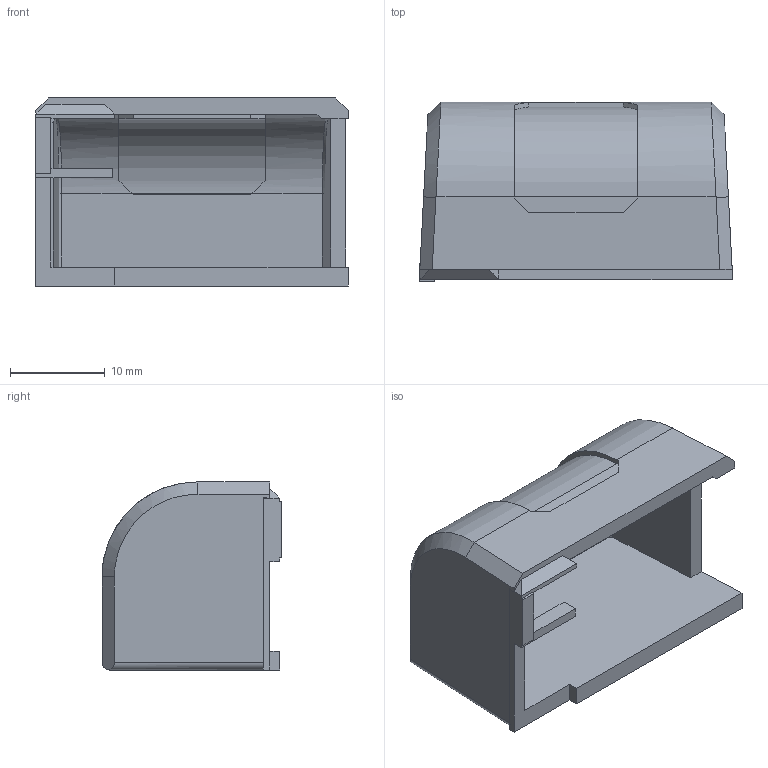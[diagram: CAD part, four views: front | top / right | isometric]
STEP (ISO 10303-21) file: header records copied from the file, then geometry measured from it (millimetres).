
FILE_DESCRIPTION(('Open CASCADE Model'),'2;1');
FILE_NAME('Open CASCADE Shape Model','2026-10-07T12:05:30',('Author'),( 'Open CASCADE'),'Open CASCADE STEP processor 7.9','Open CASCADE 7.9' ,'Unknown');
FILE_SCHEMA(('AUTOMOTIVE_DESIGN { 1 0 10303 214 1 1 1 1 }'));
Length unit declared in the file: millimetre
Products named in the file (1): Open CASCADE STEP translator 7.9 1
Bounding box: 32.9 x 18.95 x 19.8 mm (x, y, z)
Volume: 3390.4 mm3; surface area: 4158.4 mm2
Topology: 1 solids, 1 shells, 82 faces, 236 edges, 156 vertices
Faces by surface type: plane 70, cylinder 8, bspline 4
Entity records: 7173 total; most frequent: CARTESIAN_POINT 2844, DIRECTION 679, ORIENTED_EDGE 472, PCURVE 472, DEFINITIONAL_REPRESENTATION 472, LINE 455, VECTOR 455, EDGE_CURVE 236
